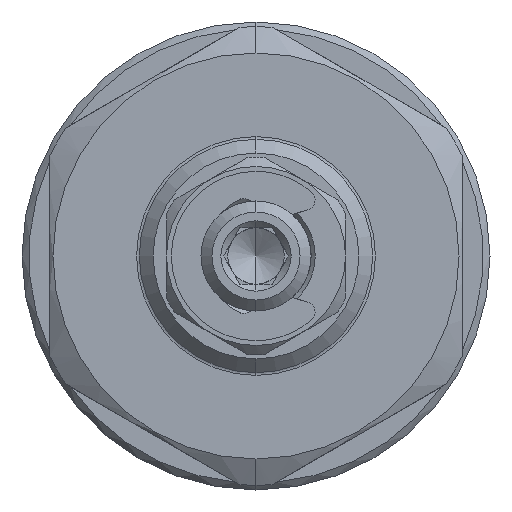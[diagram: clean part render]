
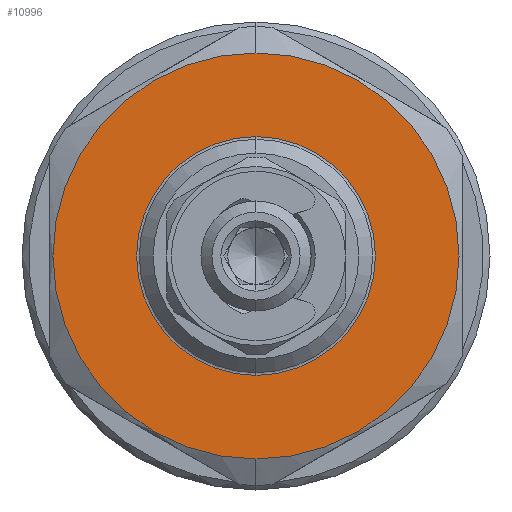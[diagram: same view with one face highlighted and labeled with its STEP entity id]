
A CAD part, left-side view. The second image highlights one B-rep face of the part: STEP entity #10996.
In plain terms, the highlighted planar face has unit normal (-1, 0, 0).
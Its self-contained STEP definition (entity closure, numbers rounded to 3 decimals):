
#451 = CIRCLE ( 'NONE', #13878, 14.75 ) ;
#828 = FACE_BOUND ( 'NONE', #8069, .T. ) ;
#901 = DIRECTION ( 'NONE',  ( -1., 0., 0. ) ) ;
#1137 = CARTESIAN_POINT ( 'NONE',  ( 13., 0., 8.672 ) ) ;
#1266 = ORIENTED_EDGE ( 'NONE', *, *, #13583, .F. ) ;
#2267 = CARTESIAN_POINT ( 'NONE',  ( 13., 0., -8.672 ) ) ;
#2747 = CARTESIAN_POINT ( 'NONE',  ( 13., 8.672, 0. ) ) ;
#3561 = DIRECTION ( 'NONE',  ( 0., 0., 1. ) ) ;
#3961 = CIRCLE ( 'NONE', #11462, 14.75 ) ;
#4053 = DIRECTION ( 'NONE',  ( 0., 0., 1. ) ) ;
#4207 = ORIENTED_EDGE ( 'NONE', *, *, #7670, .F. ) ;
#4534 = EDGE_CURVE ( 'NONE', #11621, #11660, #451, .T. ) ;
#4643 = AXIS2_PLACEMENT_3D ( 'NONE', #2747, #9491, #12504 ) ;
#4944 = FACE_OUTER_BOUND ( 'NONE', #5065, .T. ) ;
#5065 = EDGE_LOOP ( 'NONE', ( #11105, #13088 ) ) ;
#5993 = DIRECTION ( 'NONE',  ( -1., 0., 0. ) ) ;
#6515 = CARTESIAN_POINT ( 'NONE',  ( 13., 0., -14.75 ) ) ;
#6962 = DIRECTION ( 'NONE',  ( -1., 0., 0. ) ) ;
#7168 = CIRCLE ( 'NONE', #8978, 8.672 ) ;
#7619 = VERTEX_POINT ( 'NONE', #2267 ) ;
#7670 = EDGE_CURVE ( 'NONE', #7619, #12669, #7168, .T. ) ;
#7695 = CARTESIAN_POINT ( 'NONE',  ( 13., 0., 0. ) ) ;
#8069 = EDGE_LOOP ( 'NONE', ( #1266, #4207 ) ) ;
#8261 = AXIS2_PLACEMENT_3D ( 'NONE', #7695, #5993, #11418 ) ;
#8978 = AXIS2_PLACEMENT_3D ( 'NONE', #13032, #6962, #3561 ) ;
#9460 = CARTESIAN_POINT ( 'NONE',  ( 13., 0., 0. ) ) ;
#9491 = DIRECTION ( 'NONE',  ( 1., 0., 0. ) ) ;
#9565 = CARTESIAN_POINT ( 'NONE',  ( 13., 0., 0. ) ) ;
#10974 = CIRCLE ( 'NONE', #8261, 8.672 ) ;
#10996 = ADVANCED_FACE ( 'NONE', ( #828, #4944 ), #12713, .F. ) ;
#11105 = ORIENTED_EDGE ( 'NONE', *, *, #4534, .T. ) ;
#11418 = DIRECTION ( 'NONE',  ( 0., 0., 1. ) ) ;
#11462 = AXIS2_PLACEMENT_3D ( 'NONE', #9565, #901, #11989 ) ;
#11621 = VERTEX_POINT ( 'NONE', #6515 ) ;
#11660 = VERTEX_POINT ( 'NONE', #13310 ) ;
#11989 = DIRECTION ( 'NONE',  ( 0., 0., 1. ) ) ;
#12504 = DIRECTION ( 'NONE',  ( 0., 0., -1. ) ) ;
#12669 = VERTEX_POINT ( 'NONE', #1137 ) ;
#12713 = PLANE ( 'NONE',  #4643 ) ;
#13032 = CARTESIAN_POINT ( 'NONE',  ( 13., 0., 0. ) ) ;
#13088 = ORIENTED_EDGE ( 'NONE', *, *, #13460, .T. ) ;
#13310 = CARTESIAN_POINT ( 'NONE',  ( 13., 0., 14.75 ) ) ;
#13460 = EDGE_CURVE ( 'NONE', #11660, #11621, #3961, .T. ) ;
#13583 = EDGE_CURVE ( 'NONE', #12669, #7619, #10974, .T. ) ;
#13826 = DIRECTION ( 'NONE',  ( -1., 0., 0. ) ) ;
#13878 = AXIS2_PLACEMENT_3D ( 'NONE', #9460, #13826, #4053 ) ;
